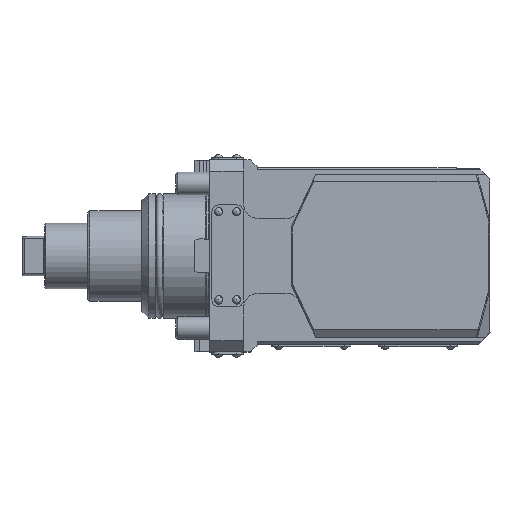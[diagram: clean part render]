
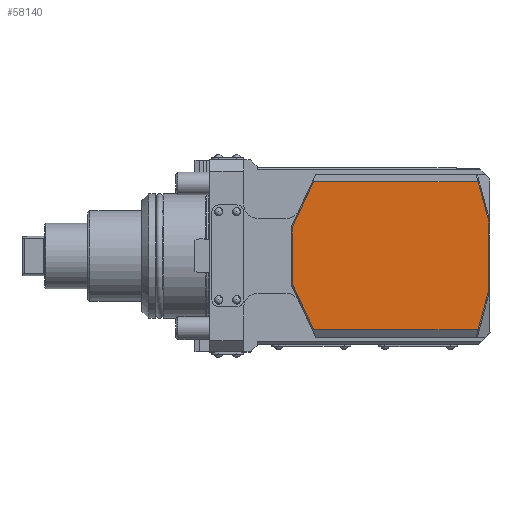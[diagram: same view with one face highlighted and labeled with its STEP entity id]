
A CAD part, top view. The second image highlights one B-rep face of the part: STEP entity #58140.
In plain terms, the highlighted planar face has unit normal (0, 0, 1) as drawn and (-1, 0, 0) by its records, which use the part's own axes.
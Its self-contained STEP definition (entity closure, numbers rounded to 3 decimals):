
#24856=VECTOR('',#40329,1.);
#24867=VECTOR('',#40344,1.);
#24872=VECTOR('',#40351,1.);
#24873=VECTOR('',#40352,1.);
#24874=VECTOR('',#40353,1.);
#24875=VECTOR('',#40354,1.);
#24876=VECTOR('',#40355,1.);
#24877=VECTOR('',#40356,1.);
#26280=LINE('',#50113,#24856);
#26291=LINE('',#50136,#24867);
#26296=LINE('',#50145,#24872);
#26297=LINE('',#50147,#24873);
#26298=LINE('',#50148,#24874);
#26299=LINE('',#50150,#24875);
#26300=LINE('',#50152,#24876);
#26301=LINE('',#50153,#24877);
#28434=ORIENTED_EDGE('',*,*,#34895,.F.);
#28435=ORIENTED_EDGE('',*,*,#34911,.F.);
#28436=ORIENTED_EDGE('',*,*,#34912,.F.);
#28437=ORIENTED_EDGE('',*,*,#34913,.F.);
#28438=ORIENTED_EDGE('',*,*,#34906,.F.);
#28439=ORIENTED_EDGE('',*,*,#34914,.F.);
#28440=ORIENTED_EDGE('',*,*,#34915,.F.);
#28441=ORIENTED_EDGE('',*,*,#34916,.F.);
#33150=VERTEX_POINT('',#50110);
#33151=VERTEX_POINT('',#50112);
#33160=VERTEX_POINT('',#50134);
#33161=VERTEX_POINT('',#50135);
#33164=VERTEX_POINT('',#50144);
#33165=VERTEX_POINT('',#50146);
#33166=VERTEX_POINT('',#50149);
#33167=VERTEX_POINT('',#50151);
#34895=EDGE_CURVE('',#33150,#33151,#26280,.T.);
#34906=EDGE_CURVE('',#33160,#33161,#26291,.T.);
#34911=EDGE_CURVE('',#33164,#33150,#26296,.T.);
#34912=EDGE_CURVE('',#33165,#33164,#26297,.T.);
#34913=EDGE_CURVE('',#33161,#33165,#26298,.T.);
#34914=EDGE_CURVE('',#33166,#33160,#26299,.T.);
#34915=EDGE_CURVE('',#33167,#33166,#26300,.T.);
#34916=EDGE_CURVE('',#33151,#33167,#26301,.T.);
#37043=EDGE_LOOP('',(#28434,#28435,#28436,#28437,#28438,#28439,#28440,#28441));
#38340=FACE_BOUND('',#37043,.T.);
#40329=DIRECTION('',(0.,-72.709,0.));
#40344=DIRECTION('',(0.,72.709,0.));
#40349=DIRECTION('',(-1.,0.,0.));
#40350=DIRECTION('',(0.,1.,0.));
#40351=DIRECTION('',(0.,-9.524,20.425));
#40352=DIRECTION('',(0.,0.,24.599));
#40353=DIRECTION('',(0.,9.524,20.425));
#40354=DIRECTION('',(0.,4.767,-17.79));
#40355=DIRECTION('',(0.,0.,-29.868));
#40356=DIRECTION('',(0.,-4.767,-17.79));
#50110=CARTESIAN_POINT('',(46.381,126.198,32.724));
#50112=CARTESIAN_POINT('',(46.381,53.489,32.724));
#50113=CARTESIAN_POINT('',(46.381,126.198,32.724));
#50134=CARTESIAN_POINT('',(46.381,53.489,-32.724));
#50135=CARTESIAN_POINT('',(46.381,126.198,-32.724));
#50136=CARTESIAN_POINT('',(46.381,53.489,-32.724));
#50143=CARTESIAN_POINT('',(46.381,48.222,0.));
#50144=CARTESIAN_POINT('',(46.381,135.722,12.3));
#50145=CARTESIAN_POINT('',(46.381,135.722,12.3));
#50146=CARTESIAN_POINT('',(46.381,135.722,-12.3));
#50147=CARTESIAN_POINT('',(46.381,135.722,-12.3));
#50148=CARTESIAN_POINT('',(46.381,126.198,-32.724));
#50149=CARTESIAN_POINT('',(46.381,48.722,-14.934));
#50150=CARTESIAN_POINT('',(46.381,48.722,-14.934));
#50151=CARTESIAN_POINT('',(46.381,48.722,14.934));
#50152=CARTESIAN_POINT('',(46.381,48.722,14.934));
#50153=CARTESIAN_POINT('',(46.381,53.489,32.724));
#55893=AXIS2_PLACEMENT_3D('',#50143,#40349,#40350);
#57364=PLANE('',#55893);
#58140=ADVANCED_FACE('',(#38340),#57364,.T.);
